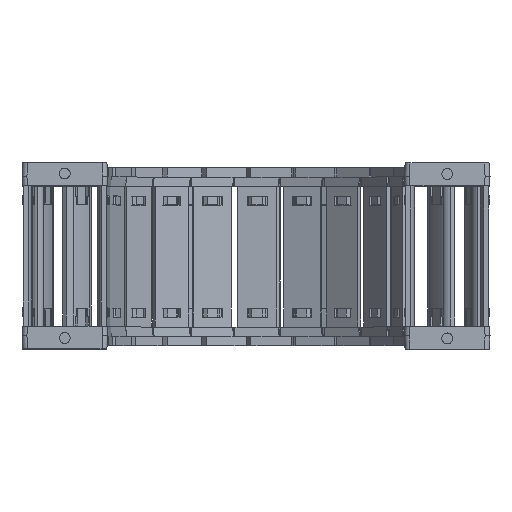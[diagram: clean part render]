
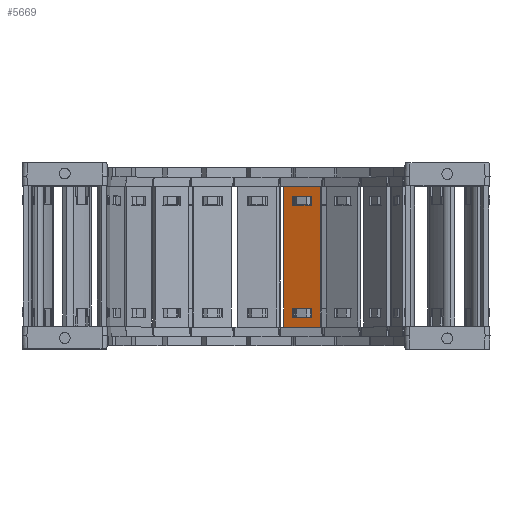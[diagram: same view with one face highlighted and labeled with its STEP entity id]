
A CAD part, top view. The second image highlights one B-rep face of the part: STEP entity #5669.
In plain terms, the highlighted planar face has unit normal (-0.342, 0, 0.94) as drawn and (0, 1, 0) by its records, which use the part's own axes.
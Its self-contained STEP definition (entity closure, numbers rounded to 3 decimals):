
#5089=DIRECTION('',(0.,0.,1.));
#5090=VECTOR('',#5089,15.8);
#5091=CARTESIAN_POINT('',(42.24,1.5,-7.9));
#5092=LINE('',#5091,#5090);
#5093=DIRECTION('',(-1.,0.,0.));
#5094=VECTOR('',#5093,57.);
#5095=CARTESIAN_POINT('',(42.24,1.5,7.9));
#5096=LINE('',#5095,#5094);
#5097=DIRECTION('',(0.,0.,-1.));
#5098=VECTOR('',#5097,15.8);
#5099=CARTESIAN_POINT('',(-14.76,1.5,7.9));
#5100=LINE('',#5099,#5098);
#5101=DIRECTION('',(1.,0.,0.));
#5102=VECTOR('',#5101,3.648);
#5103=CARTESIAN_POINT('',(34.622,1.5,4.075));
#5104=LINE('',#5103,#5102);
#5105=DIRECTION('',(0.,0.,-1.));
#5106=VECTOR('',#5105,8.15);
#5107=CARTESIAN_POINT('',(38.27,1.5,4.075));
#5108=LINE('',#5107,#5106);
#5109=DIRECTION('',(-1.,0.,0.));
#5110=VECTOR('',#5109,3.648);
#5111=CARTESIAN_POINT('',(38.27,1.5,-4.075));
#5112=LINE('',#5111,#5110);
#5113=DIRECTION('',(0.,0.,-1.));
#5114=VECTOR('',#5113,8.15);
#5115=CARTESIAN_POINT('',(-7.142,1.5,4.075));
#5116=LINE('',#5115,#5114);
#5117=DIRECTION('',(-1.,0.,0.));
#5118=VECTOR('',#5117,3.648);
#5119=CARTESIAN_POINT('',(-7.142,1.5,-4.075));
#5120=LINE('',#5119,#5118);
#5121=DIRECTION('',(0.,0.,1.));
#5122=VECTOR('',#5121,8.15);
#5123=CARTESIAN_POINT('',(-10.79,1.5,-4.075));
#5124=LINE('',#5123,#5122);
#5125=DIRECTION('',(1.,0.,0.));
#5126=VECTOR('',#5125,3.648);
#5127=CARTESIAN_POINT('',(-10.79,1.5,4.075));
#5128=LINE('',#5127,#5126);
#5133=DIRECTION('',(-1.,0.,0.));
#5134=VECTOR('',#5133,57.);
#5135=CARTESIAN_POINT('',(42.24,1.5,-7.9));
#5136=LINE('',#5135,#5134);
#5254=DIRECTION('',(0.,0.,-1.));
#5255=VECTOR('',#5254,8.15);
#5256=CARTESIAN_POINT('',(34.622,1.5,4.075));
#5257=LINE('',#5256,#5255);
#5439=CARTESIAN_POINT('',(38.27,1.5,4.075));
#5440=VERTEX_POINT('',#5439);
#5441=CARTESIAN_POINT('',(34.622,1.5,4.075));
#5442=VERTEX_POINT('',#5441);
#5483=CARTESIAN_POINT('',(34.622,1.5,-4.075));
#5484=VERTEX_POINT('',#5483);
#5485=CARTESIAN_POINT('',(38.27,1.5,-4.075));
#5486=VERTEX_POINT('',#5485);
#5487=CARTESIAN_POINT('',(42.24,1.5,7.9));
#5489=VERTEX_POINT('',#5487);
#5491=CARTESIAN_POINT('',(42.24,1.5,-7.9));
#5492=VERTEX_POINT('',#5491);
#5515=CARTESIAN_POINT('',(-7.142,1.5,4.075));
#5516=CARTESIAN_POINT('',(-7.142,1.5,-4.075));
#5517=VERTEX_POINT('',#5515);
#5518=VERTEX_POINT('',#5516);
#5519=CARTESIAN_POINT('',(-10.79,1.5,-4.075));
#5520=VERTEX_POINT('',#5519);
#5521=CARTESIAN_POINT('',(-10.79,1.5,4.075));
#5522=VERTEX_POINT('',#5521);
#5523=CARTESIAN_POINT('',(-14.76,1.5,7.9));
#5524=VERTEX_POINT('',#5523);
#5527=CARTESIAN_POINT('',(-14.76,1.5,-7.9));
#5528=VERTEX_POINT('',#5527);
#5638=CARTESIAN_POINT('',(73.98,1.5,10.061));
#5639=DIRECTION('',(0.,-1.,0.));
#5640=DIRECTION('',(0.,0.,-1.));
#5641=AXIS2_PLACEMENT_3D('',#5638,#5639,#5640);
#5642=PLANE('',#5641);
#5643=ORIENTED_EDGE('',*,*,#5577,.T.);
#5644=ORIENTED_EDGE('',*,*,#5603,.T.);
#5645=ORIENTED_EDGE('',*,*,#5616,.T.);
#5647=ORIENTED_EDGE('',*,*,#5646,.F.);
#5648=EDGE_LOOP('',(#5643,#5644,#5645,#5647));
#5649=FACE_OUTER_BOUND('',#5648,.F.);
#5651=ORIENTED_EDGE('',*,*,#5650,.F.);
#5652=ORIENTED_EDGE('',*,*,#5540,.T.);
#5654=ORIENTED_EDGE('',*,*,#5653,.T.);
#5656=ORIENTED_EDGE('',*,*,#5655,.T.);
#5657=EDGE_LOOP('',(#5651,#5652,#5654,#5656));
#5658=FACE_BOUND('',#5657,.F.);
#5660=ORIENTED_EDGE('',*,*,#5659,.T.);
#5662=ORIENTED_EDGE('',*,*,#5661,.T.);
#5664=ORIENTED_EDGE('',*,*,#5663,.T.);
#5666=ORIENTED_EDGE('',*,*,#5665,.T.);
#5667=EDGE_LOOP('',(#5660,#5662,#5664,#5666));
#5668=FACE_BOUND('',#5667,.F.);
#5669=ADVANCED_FACE('',(#5649,#5658,#5668),#5642,.F.);
#5540=EDGE_CURVE('',#5442,#5440,#5104,.T.);
#5577=EDGE_CURVE('',#5492,#5489,#5092,.T.);
#5603=EDGE_CURVE('',#5489,#5524,#5096,.T.);
#5616=EDGE_CURVE('',#5524,#5528,#5100,.T.);
#5646=EDGE_CURVE('',#5492,#5528,#5136,.T.);
#5650=EDGE_CURVE('',#5442,#5484,#5257,.T.);
#5653=EDGE_CURVE('',#5440,#5486,#5108,.T.);
#5655=EDGE_CURVE('',#5486,#5484,#5112,.T.);
#5659=EDGE_CURVE('',#5517,#5518,#5116,.T.);
#5661=EDGE_CURVE('',#5518,#5520,#5120,.T.);
#5663=EDGE_CURVE('',#5520,#5522,#5124,.T.);
#5665=EDGE_CURVE('',#5522,#5517,#5128,.T.);
